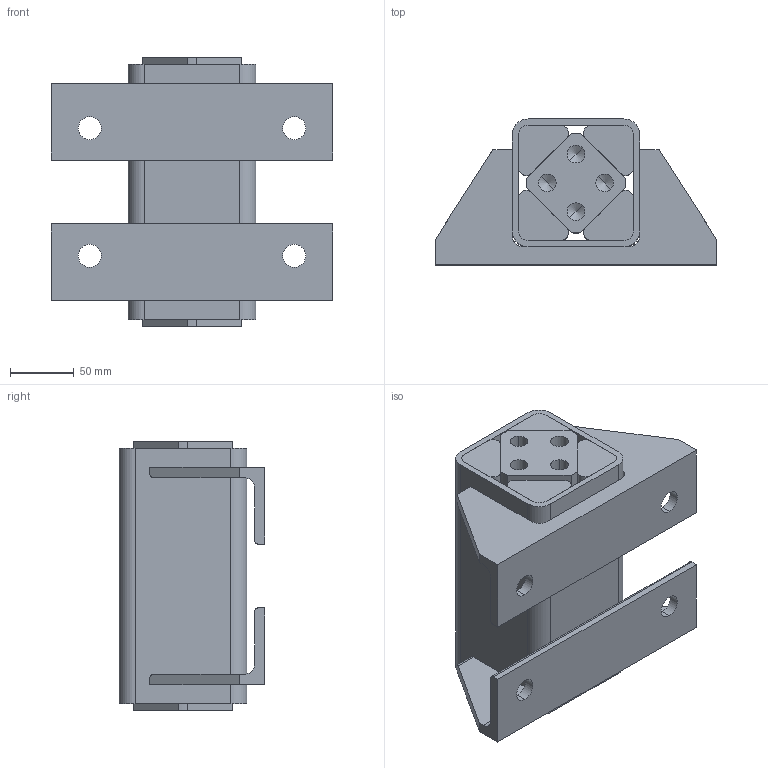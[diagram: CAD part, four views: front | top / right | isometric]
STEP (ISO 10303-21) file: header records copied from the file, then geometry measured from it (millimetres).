
FILE_DESCRIPTION((''),'2;1');
FILE_NAME('\\rostaofc\data\uw\save\daten_f\Normprogramm 3D\Gummifedertechnologie\DW-A60x200_01101002.stp','2007-01-04T10:46:42',('uw'),(''),'Autodesk Inventor 8','Autodesk Inventor 8','');
FILE_SCHEMA(('AUTOMOTIVE_DESIGN { 1 0 10303 214 1 1 1 1 }'));
Length unit declared in the file: millimetre
Products named in the file (5): ROSTA-Gummifederelement DW-A 60x200; 2.4.4811-006; 2.4.4811.007; 2.4.4811.008; 2.4.4811-009
Assembly tree (8 placements, depth 2):
  ROSTA-Gummifederelement DW-A 60x200
    2.4.4811-006
    2.4.4811.007
    2.4.4811.008  x2
    2.4.4811-009  x4
Bounding box: 220 x 114 x 210 mm (x, y, z)
Volume: 2217059.4 mm3; surface area: 419990.3 mm2
Topology: 8 solids, 8 shells, 144 faces, 368 edges, 232 vertices
Faces by surface type: plane 66, cylinder 46, bspline 32
Entity records: 3411 total; most frequent: CARTESIAN_POINT 1099, DIRECTION 458, ORIENTED_EDGE 452, EDGE_CURVE 226, AXIS2_PLACEMENT_3D 159, VERTEX_POINT 148, VECTOR 140, LINE 140
